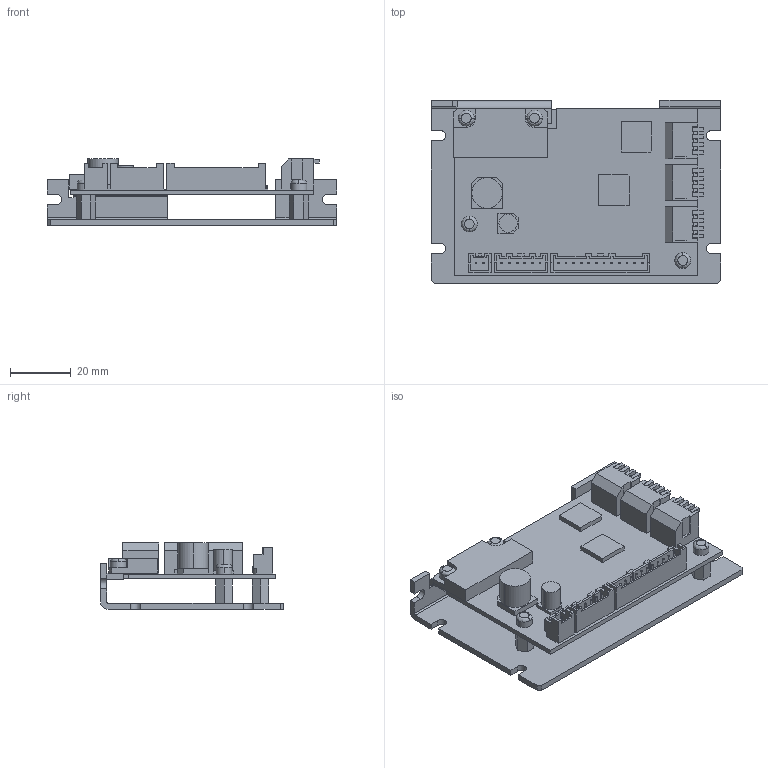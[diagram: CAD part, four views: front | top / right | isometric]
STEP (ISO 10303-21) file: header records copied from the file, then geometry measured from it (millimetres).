
FILE_DESCRIPTION (( 'STEP AP214' ), '1' );
FILE_NAME ('PDSA-UB_3D.STEP', '2021-12-22T01:31:43', ( '' ), ( '' ), 'SwSTEP 2.0', 'SolidWorks 2018', '' );
FILE_SCHEMA (( 'AUTOMOTIVE_DESIGN' ));
Length unit declared in the file: millimetre
Products named in the file (1): PDSA-UB_3D
Bounding box: 95 x 60 x 21.9 mm (x, y, z)
Volume: 28374.7 mm3; surface area: 29875.9 mm2
Topology: 9 solids, 9 shells, 489 faces, 1272 edges, 848 vertices
Faces by surface type: plane 409, cylinder 72, bspline 8
Entity records: 15062 total; most frequent: CARTESIAN_POINT 2839, ORIENTED_EDGE 2544, DIRECTION 2372, EDGE_CURVE 1272, LINE 1104, VECTOR 1104, VERTEX_POINT 848, AXIS2_PLACEMENT_3D 634
